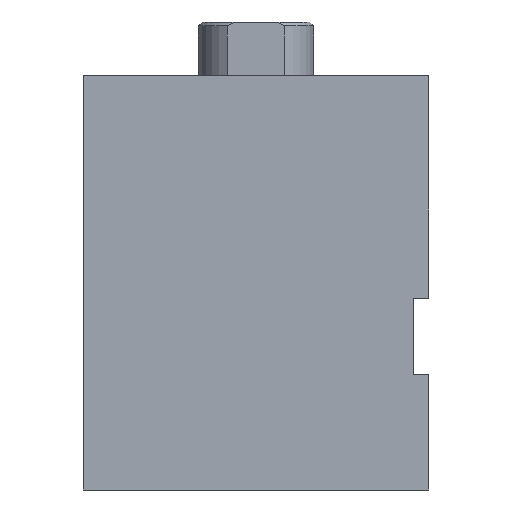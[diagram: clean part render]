
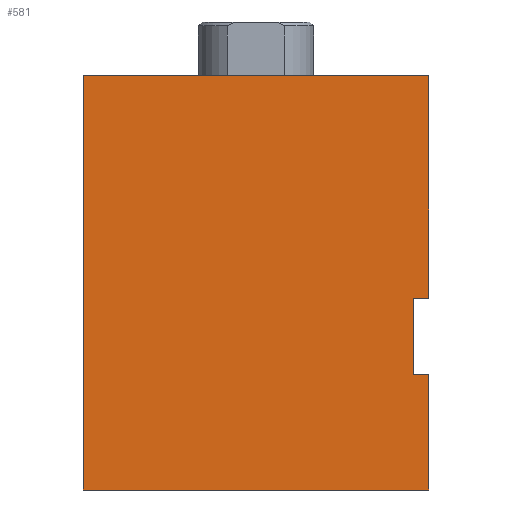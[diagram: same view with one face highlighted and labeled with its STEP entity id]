
A CAD part, front view. The second image highlights one B-rep face of the part: STEP entity #581.
In plain terms, the highlighted planar face has unit normal (0, -1, 0).
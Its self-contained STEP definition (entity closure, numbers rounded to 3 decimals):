
#25 = DIRECTION ( 'NONE',  ( 1., 0., 0. ) ) ;
#62 = LINE ( 'NONE', #2404, #9214 ) ;
#335 = LINE ( 'NONE', #8908, #3106 ) ;
#413 = VECTOR ( 'NONE', #25, 1000. ) ;
#419 = EDGE_CURVE ( 'NONE', #628, #5836, #62, .T. ) ;
#581 = ADVANCED_FACE ( 'NONE', ( #8845 ), #924, .F. ) ;
#628 = VERTEX_POINT ( 'NONE', #8045 ) ;
#924 = PLANE ( 'NONE',  #8422 ) ;
#1055 = DIRECTION ( 'NONE',  ( 0., 0., -1. ) ) ;
#1122 = CARTESIAN_POINT ( 'NONE',  ( 45., 0., 0. ) ) ;
#1565 = CARTESIAN_POINT ( 'NONE',  ( 0., 0., 54. ) ) ;
#1568 = VECTOR ( 'NONE', #3068, 1000. ) ;
#1721 = EDGE_CURVE ( 'NONE', #6232, #2331, #2558, .T. ) ;
#1838 = EDGE_CURVE ( 'NONE', #3907, #2947, #6481, .T. ) ;
#1959 = VECTOR ( 'NONE', #4688, 1000. ) ;
#2154 = CARTESIAN_POINT ( 'NONE',  ( 45., 0., 25. ) ) ;
#2331 = VERTEX_POINT ( 'NONE', #6616 ) ;
#2404 = CARTESIAN_POINT ( 'NONE',  ( 45., 0., 54. ) ) ;
#2558 = LINE ( 'NONE', #7053, #1568 ) ;
#2764 = EDGE_CURVE ( 'NONE', #9187, #3907, #3122, .T. ) ;
#2947 = VERTEX_POINT ( 'NONE', #2154 ) ;
#2974 = ORIENTED_EDGE ( 'NONE', *, *, #1721, .F. ) ;
#3068 = DIRECTION ( 'NONE',  ( 0., 0., -1. ) ) ;
#3106 = VECTOR ( 'NONE', #1055, 1000. ) ;
#3122 = LINE ( 'NONE', #4821, #7536 ) ;
#3167 = CARTESIAN_POINT ( 'NONE',  ( 45., 0., 54. ) ) ;
#3413 = VECTOR ( 'NONE', #5644, 1000. ) ;
#3691 = ORIENTED_EDGE ( 'NONE', *, *, #1838, .F. ) ;
#3777 = CARTESIAN_POINT ( 'NONE',  ( 43., 0., 25. ) ) ;
#3907 = VERTEX_POINT ( 'NONE', #6055 ) ;
#4688 = DIRECTION ( 'NONE',  ( 1., 0., 0. ) ) ;
#4821 = CARTESIAN_POINT ( 'NONE',  ( 0., 0., 54. ) ) ;
#4834 = CARTESIAN_POINT ( 'NONE',  ( 43., 0., 15. ) ) ;
#4916 = DIRECTION ( 'NONE',  ( 1., 0., 0. ) ) ;
#5028 = LINE ( 'NONE', #4834, #413 ) ;
#5428 = VERTEX_POINT ( 'NONE', #9358 ) ;
#5644 = DIRECTION ( 'NONE',  ( 0., 0., -1. ) ) ;
#5836 = VERTEX_POINT ( 'NONE', #1122 ) ;
#6055 = CARTESIAN_POINT ( 'NONE',  ( 45., 0., 54. ) ) ;
#6132 = EDGE_CURVE ( 'NONE', #6232, #2947, #9457, .T. ) ;
#6137 = LINE ( 'NONE', #6138, #1959 ) ;
#6138 = CARTESIAN_POINT ( 'NONE',  ( 0., 0., 0. ) ) ;
#6141 = EDGE_CURVE ( 'NONE', #2331, #628, #5028, .T. ) ;
#6232 = VERTEX_POINT ( 'NONE', #8916 ) ;
#6375 = DIRECTION ( 'NONE',  ( 0., 0., -1. ) ) ;
#6449 = DIRECTION ( 'NONE',  ( 0., 1., 0. ) ) ;
#6481 = LINE ( 'NONE', #3167, #3413 ) ;
#6514 = DIRECTION ( 'NONE',  ( 0., 0., 1. ) ) ;
#6616 = CARTESIAN_POINT ( 'NONE',  ( 43., 0., 15. ) ) ;
#7053 = CARTESIAN_POINT ( 'NONE',  ( 43., 0., 25. ) ) ;
#7376 = VECTOR ( 'NONE', #8519, 1000. ) ;
#7536 = VECTOR ( 'NONE', #4916, 1000. ) ;
#7584 = EDGE_CURVE ( 'NONE', #9187, #5428, #335, .T. ) ;
#7834 = ORIENTED_EDGE ( 'NONE', *, *, #7584, .T. ) ;
#7958 = ORIENTED_EDGE ( 'NONE', *, *, #2764, .F. ) ;
#8045 = CARTESIAN_POINT ( 'NONE',  ( 45., 0., 15. ) ) ;
#8422 = AXIS2_PLACEMENT_3D ( 'NONE', #9648, #6449, #6514 ) ;
#8467 = ORIENTED_EDGE ( 'NONE', *, *, #9762, .T. ) ;
#8519 = DIRECTION ( 'NONE',  ( 1., 0., 0. ) ) ;
#8845 = FACE_OUTER_BOUND ( 'NONE', #9838, .T. ) ;
#8908 = CARTESIAN_POINT ( 'NONE',  ( 0., 0., 54. ) ) ;
#8916 = CARTESIAN_POINT ( 'NONE',  ( 43., 0., 25. ) ) ;
#8983 = ORIENTED_EDGE ( 'NONE', *, *, #6141, .F. ) ;
#9187 = VERTEX_POINT ( 'NONE', #1565 ) ;
#9214 = VECTOR ( 'NONE', #6375, 1000. ) ;
#9358 = CARTESIAN_POINT ( 'NONE',  ( 0., 0., 0. ) ) ;
#9457 = LINE ( 'NONE', #3777, #7376 ) ;
#9648 = CARTESIAN_POINT ( 'NONE',  ( 0., 0., 54. ) ) ;
#9742 = ORIENTED_EDGE ( 'NONE', *, *, #419, .F. ) ;
#9762 = EDGE_CURVE ( 'NONE', #5428, #5836, #6137, .T. ) ;
#9838 = EDGE_LOOP ( 'NONE', ( #2974, #9842, #3691, #7958, #7834, #8467, #9742, #8983 ) ) ;
#9842 = ORIENTED_EDGE ( 'NONE', *, *, #6132, .T. ) ;
